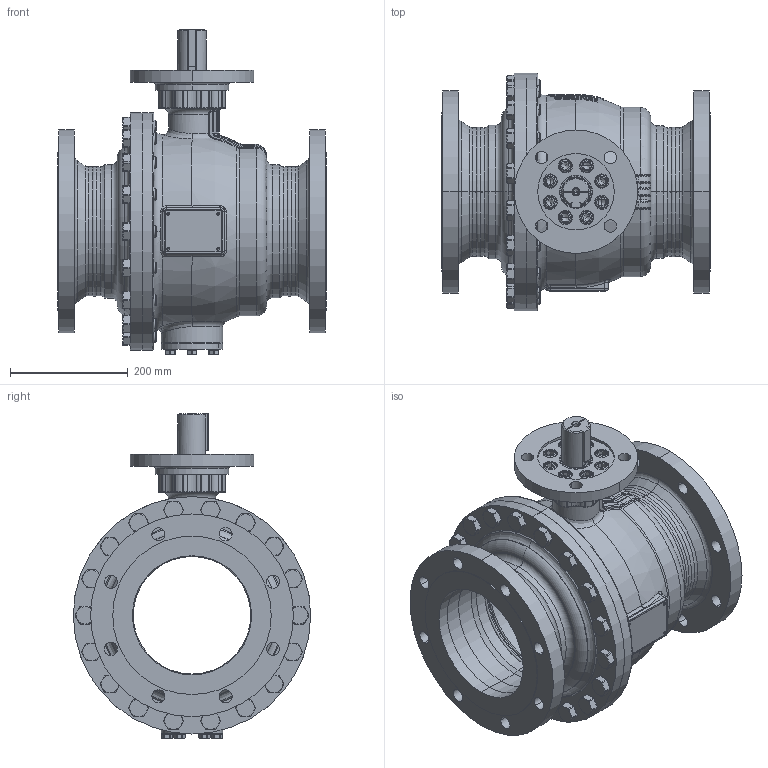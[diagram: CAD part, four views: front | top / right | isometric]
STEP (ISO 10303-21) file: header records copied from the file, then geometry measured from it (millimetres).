
FILE_DESCRIPTION((''),'2;1');
FILE_NAME('KHI-F_200_CL150-F16-P_SW0001','2026-02-05T13:30:49',('fischerkl'),('KLINGER'),'CREO PARAMETRIC BY PTC INC, 2023014','CREO PARAMETRIC BY PTC INC, 2023014','');
FILE_SCHEMA(('CONFIG_CONTROL_DESIGN'));
Products named in the file (1): KHI-F_200_CL150-F16-P_SW0001
Bounding box: 457 x 404 x 552.2 mm (x, y, z)
Volume: 13591603.3 mm3; surface area: 2290384.6 mm2
Topology: 1 solids, 4 shells, 2921 faces, 7284 edges, 4512 vertices
Faces by surface type: plane 1414, cylinder 704, cone 360, torus 305, bspline 108, sphere 30
Entity records: 120253 total; most frequent: CARTESIAN_POINT 51488, ORIENTED_EDGE 14516, DIRECTION 14250, EDGE_CURVE 7258, AXIS2_PLACEMENT_3D 5493, VERTEX_POINT 4512, VECTOR 3264, LINE 3264
